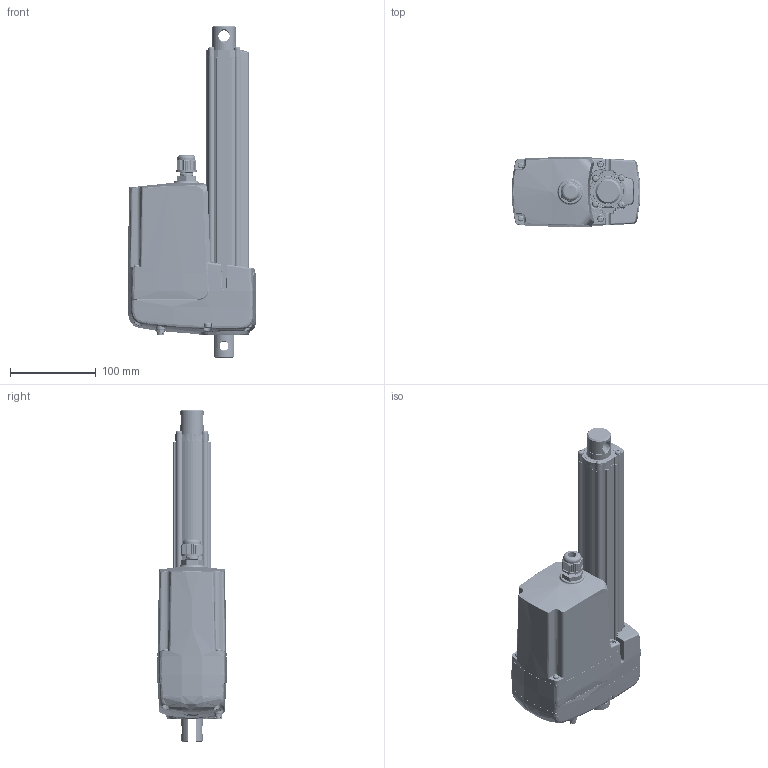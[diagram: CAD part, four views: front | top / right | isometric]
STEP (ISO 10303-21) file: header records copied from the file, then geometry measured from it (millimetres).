
FILE_DESCRIPTION (( 'STEP AP203' ), '1' );
FILE_NAME ('3D_MA6.STEP', '2022-09-12T09:31:41', ( '' ), ( '' ), 'SwSTEP 2.0', 'SolidWorks 2015', '' );
FILE_SCHEMA (( 'CONFIG_CONTROL_DESIGN' ));
Products named in the file (1): 3D_MA6
Bounding box: 149.91 x 81.43 x 387.4 mm (x, y, z)
Volume: 550466.7 mm3; surface area: 427858.1 mm2
Topology: 49 solids, 50 shells, 6401 faces, 16346 edges, 10118 vertices
Faces by surface type: cylinder 1884, bspline 1880, plane 1305, cone 727, torus 512, sphere 93
Entity records: 312437 total; most frequent: CARTESIAN_POINT 174359, ORIENTED_EDGE 32524, DIRECTION 24686, EDGE_CURVE 16262, VERTEX_POINT 10118, AXIS2_PLACEMENT_3D 9990, EDGE_LOOP 6762, ADVANCED_FACE 6401
